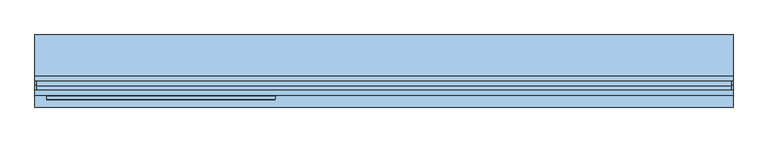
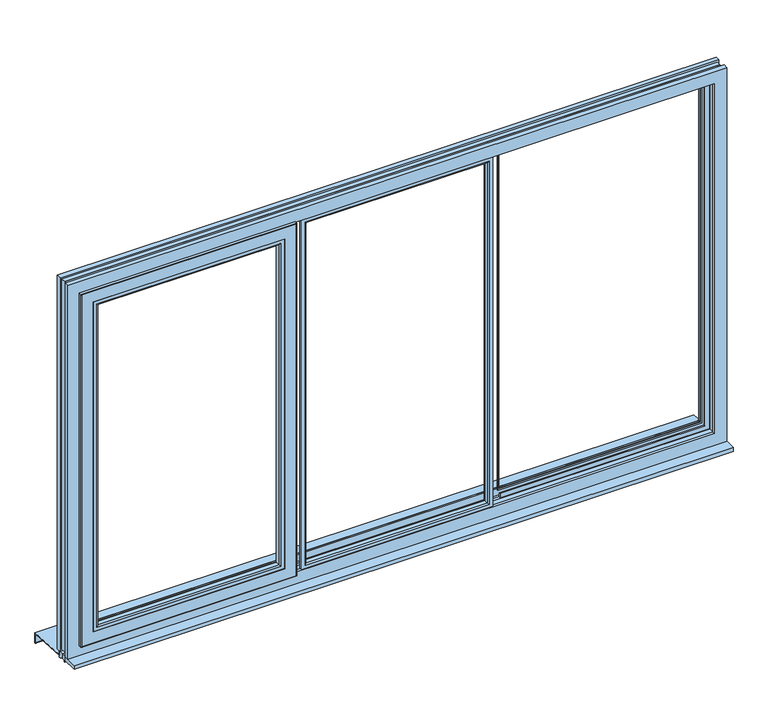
"""IFC4 building model written with IfcOpenShell, lengths in millimetres: window geometry, BZ1_Windows_Opening-Hinge_S9000_Three-Piece-Window-Turn-Tilt : Windows_Opening-Hinge_S9000_Three-Piece-Window-Turn-Tilt."""

from ifc_helpers import new_model, si_unit, point, frame, frame_2d, origin, place, context, project, spatial, polyline, circle_curve, ellipse_curve, trimmed, segment, composite_curve, outline, extrude, faceted_brep, source, transform, mapped, element, save
from ifc_brep_helpers import plane_surface, cylinder_surface, advanced_brep


def window_5d68ef25(model_context):
    return source(origin(), model_context, "Body", "SolidModel", [
        advanced_brep(
        [(-1394.0, -107.25, 2563.9999996), (-1394.0, -118.5, 2563.9999996), (-1394.0, -118.5, 975.9999996), (-1394.0, -107.25, 975.9999996), (-1398.1, -77.5, 2568.0999996), (-1398.1, -107.25, 2568.0999996), (-1398.1, -107.25, 971.8999996), (-1398.1, -77.5, 971.8999996), (-1430.0, -103.5, 2599.9999996), (-1430.0, -77.5, 2599.9999996), (-1430.0, -77.5, 939.9999996), (-1430.0, -103.5, 939.9999996), (-1450.0, -116.0, 2619.9999996), (-1450.0, -103.5, 2619.9999996), (-1450.0, -103.5, 919.9999996), (-1450.0, -116.0, 919.9999996), (-1447.5, -118.5, 2617.4999996), (-1447.5, -118.5, 922.4999996), (-523.4, -118.5, 975.9999996), (-523.4, -107.25, 975.9999996), (-519.3, -107.25, 971.8999996), (-519.3, -77.5, 971.8999996), (-487.4, -77.5, 939.9999996), (-487.4, -103.5, 939.9999996), (-467.4, -103.5, 919.9999996), (-467.4, -116.0, 919.9999996), (-469.9, -118.5, 922.4999996), (-523.4, -118.5, 2563.9999996), (-523.4, -107.25, 2563.9999996), (-519.3, -107.25, 2568.0999996), (-519.3, -77.5, 2568.0999996), (-487.4, -77.5, 2599.9999996), (-487.4, -103.5, 2599.9999996), (-467.4, -103.5, 2619.9999996), (-467.4, -116.0, 2619.9999996), (-469.9, -118.5, 2617.4999996)],
        [
            (0, 1),
            (1, 2),
            (2, 3),
            (3, 0),
            (4, 5),
            (5, 6),
            (6, 7),
            (7, 4),
            (8, 9),
            (9, 10),
            (10, 11),
            (11, 8),
            (12, 13),
            (13, 14),
            (14, 15),
            (15, 12),
            (16, 12, ellipse_curve(frame((-1447.5, -116.0, 2617.4999996), z_axis=(-0.707106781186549, 0.0, -0.7071067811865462), x_axis=(-0.7071067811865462, 0.0, 0.7071067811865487)), 3.5355339, 2.5)),
            (15, 17, ellipse_curve(frame((-1447.5, -116.0, 922.4999996), z_axis=(-0.7071067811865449, 0.0, 0.70710678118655), x_axis=(0.7071067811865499, 0.0, 0.707106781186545)), 3.5355339, 2.5)),
            (17, 16),
            (2, 18),
            (18, 19),
            (19, 3),
            (6, 20),
            (20, 21),
            (21, 7),
            (10, 22),
            (22, 23),
            (23, 11),
            (14, 24),
            (24, 25),
            (25, 15),
            (25, 26, ellipse_curve(frame((-469.9, -116.0, 922.4999996), z_axis=(-0.7071067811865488, 0.0, -0.7071067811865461), x_axis=(-0.7071067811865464, 0.0, 0.7071067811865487)), 3.5355339, 2.5)),
            (26, 17),
            (18, 27),
            (27, 28),
            (28, 19),
            (20, 29),
            (29, 30),
            (30, 21),
            (22, 31),
            (31, 32),
            (32, 23),
            (24, 33),
            (33, 34),
            (34, 25),
            (34, 35, ellipse_curve(frame((-469.9, -116.0, 2617.4999996), z_axis=(0.7071067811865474, 0.0, -0.7071067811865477), x_axis=(-0.7071067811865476, 0.0, -0.7071067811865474)), 3.5355339, 2.5)),
            (35, 26),
            (35, 16),
            (1, 27),
            (0, 28),
            (5, 29),
            (4, 30),
            (9, 31),
            (8, 32),
            (13, 33),
            (12, 34),
        ],
        [
            plane_surface(frame((-1394.0, -118.5, 2563.9999996), z_axis=(1.0, 0.0, 0.0), x_axis=(0.0, 0.0, -1.0))),
            plane_surface(frame((-1398.1, -107.25, 2568.0999996), z_axis=(1.0, 0.0, 0.0), x_axis=(0.0, 0.0, -1.0))),
            plane_surface(frame((-1430.0, -77.5, 2599.9999996), z_axis=(-1.0, 0.0, 0.0), x_axis=(0.0, 0.0, -1.0))),
            plane_surface(frame((-1450.0, -103.5, 2619.9999996), z_axis=(-1.0, 0.0, 0.0), x_axis=(0.0, 0.0, -1.0))),
            cylinder_surface(frame((-1447.5, -116.0, 2619.9999996), z_axis=(0.0, 0.0, 1.0), x_axis=(0.0, -1.0, 0.0)), 2.5),
            plane_surface(frame((-1394.0, -118.5, 975.9999996), z_axis=(0.0, 0.0, 1.0), x_axis=(1.0, 0.0, 0.0))),
            plane_surface(frame((-1398.1, -107.25, 971.8999996), z_axis=(0.0, 0.0, 1.0), x_axis=(1.0, 0.0, 0.0))),
            plane_surface(frame((-1430.0, -77.5, 939.9999996), z_axis=(0.0, 0.0, -1.0), x_axis=(1.0, 0.0, 0.0))),
            plane_surface(frame((-1450.0, -103.5, 919.9999996), z_axis=(0.0, 0.0, -1.0), x_axis=(1.0, 0.0, 0.0))),
            cylinder_surface(frame((-1450.0, -116.0, 922.4999996), z_axis=(-1.0, 0.0, 0.0), x_axis=(0.0, -1.0, 0.0)), 2.5),
            plane_surface(frame((-523.4, -118.5, 975.9999996), z_axis=(-1.0, 0.0, 0.0), x_axis=(0.0, 0.0, 1.0))),
            plane_surface(frame((-519.3, -107.25, 971.8999996), z_axis=(-1.0, 0.0, 0.0), x_axis=(0.0, 0.0, 1.0))),
            plane_surface(frame((-487.4, -77.5, 939.9999996), z_axis=(1.0, 0.0, 0.0), x_axis=(0.0, 0.0, 1.0))),
            plane_surface(frame((-467.4, -103.5, 919.9999996), z_axis=(1.0, 0.0, 0.0), x_axis=(0.0, 0.0, 1.0))),
            cylinder_surface(frame((-469.9, -116.0, 919.9999996), z_axis=(0.0, 0.0, -1.0), x_axis=(0.0, -1.0, 0.0)), 2.5),
            plane_surface(frame((-469.9, -118.5, 2617.4999996), z_axis=(0.0, -1.0, 0.0), x_axis=(-1.0, 0.0, 0.0))),
            plane_surface(frame((-523.4, -118.5, 2563.9999996), z_axis=(0.0, 0.0, -1.0), x_axis=(-1.0, 0.0, 0.0))),
            plane_surface(frame((-523.4, -107.25, 2563.9999996), z_axis=(0.0, 1.0, 0.0), x_axis=(-1.0, 0.0, 0.0))),
            plane_surface(frame((-519.3, -107.25, 2568.0999996), z_axis=(0.0, 0.0, -1.0), x_axis=(-1.0, 0.0, 0.0))),
            plane_surface(frame((-519.3, -77.5, 2568.0999996), z_axis=(0.0, 1.0, 0.0), x_axis=(-1.0, 0.0, 0.0))),
            plane_surface(frame((-487.4, -77.5, 2599.9999996), z_axis=(0.0, 0.0, 1.0), x_axis=(-1.0, 0.0, 0.0))),
            plane_surface(frame((-468.4, -103.5, 2618.9999996), z_axis=(0.0, 1.0, 0.0), x_axis=(-1.0, 0.0, 0.0))),
            plane_surface(frame((-467.4, -103.5, 2619.9999996), z_axis=(0.0, 0.0, 1.0), x_axis=(-1.0, 0.0, 0.0))),
            cylinder_surface(frame((-467.4, -116.0, 2617.4999996), z_axis=(1.0, 0.0, 0.0), x_axis=(0.0, -1.0, 0.0)), 2.5),
        ],
        [
            (0, [[1, 2, 3, 4]]),
            (1, [[5, 6, 7, 8]]),
            (2, [[9, 10, 11, 12]]),
            (3, [[13, 14, 15, 16]]),
            (4, [[17, -16, 18, 19]]),
            (5, [[-3, 20, 21, 22]]),
            (6, [[-7, 23, 24, 25]]),
            (7, [[-11, 26, 27, 28]]),
            (8, [[-15, 29, 30, 31]]),
            (9, [[-18, -31, 32, 33]]),
            (10, [[-21, 34, 35, 36]]),
            (11, [[-24, 37, 38, 39]]),
            (12, [[-27, 40, 41, 42]]),
            (13, [[-30, 43, 44, 45]]),
            (14, [[-32, -45, 46, 47]]),
            (15, [[-33, -47, 48, -19], [49, -34, -20, -2]]),
            (16, [[-35, -49, -1, 50]]),
            (17, [[51, -37, -23, -6], [-22, -36, -50, -4]]),
            (18, [[-38, -51, -5, 52]]),
            (19, [[53, -40, -26, -10], [-25, -39, -52, -8]]),
            (20, [[-41, -53, -9, 54]]),
            (21, [[55, -43, -29, -14], [-28, -42, -54, -12]]),
            (22, [[-44, -55, -13, 56]]),
            (23, [[-46, -56, -17, -48]]),
        ],
    ),
        advanced_brep(
        [(-1371.8959832, -112.5529143, 2541.8959828), (-1377.6915381, -117.0, 2547.6915377), (-1377.6915381, -117.0, 992.3084614), (-1371.8959832, -112.5529143, 998.1040164), (-1368.0012172, -98.0174497, 2538.0012168), (-1368.0012172, -98.0174497, 1001.9987824), (-1368.0012172, -96.5, 2538.0012168), (-1368.0012172, -96.5, 1001.9987824), (-1381.1432253, -101.5, 2551.1432248), (-1379.8034793, -96.5, 2549.8034789), (-1379.8034793, -96.5, 990.1965203), (-1381.1432253, -101.5, 988.8567743), (-1394.0, -101.5, 2563.9999996), (-1394.0, -101.5, 975.9999996), (-1394.0, -117.0, 975.9999996), (-1394.0, -117.0, 2563.9999996), (-539.7084619, -117.0, 992.3084614), (-545.5040168, -112.5529143, 998.1040164), (-549.3987828, -98.0174497, 1001.9987824), (-549.3987828, -96.5, 1001.9987824), (-537.5965207, -96.5, 990.1965203), (-536.2567747, -101.5, 988.8567743), (-523.4, -101.5, 975.9999996), (-523.4, -117.0, 975.9999996), (-539.7084619, -117.0, 2547.6915377), (-545.5040168, -112.5529143, 2541.8959828), (-549.3987828, -98.0174497, 2538.0012168), (-549.3987828, -96.5, 2538.0012168), (-537.5965207, -96.5, 2549.8034789), (-536.2567747, -101.5, 2551.1432248), (-523.4, -101.5, 2563.9999996), (-523.4, -117.0, 2563.9999996)],
        [
            (0, 1, ellipse_curve(frame((-1377.6915381, -111.0, 2547.6915377), z_axis=(-0.707106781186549, 0.0, -0.7071067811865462), x_axis=(-0.7071067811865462, 0.0, 0.7071067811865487)), 8.4852814, 6.0)),
            (1, 2),
            (2, 3, ellipse_curve(frame((-1377.6915381, -111.0, 992.3084614), z_axis=(-0.7071067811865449, 0.0, 0.70710678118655), x_axis=(0.7071067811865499, 0.0, 0.707106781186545)), 8.4852814, 6.0)),
            (3, 0),
            (4, 0),
            (3, 5),
            (5, 4),
            (6, 4),
            (5, 7),
            (7, 6),
            (8, 9),
            (9, 10),
            (10, 11),
            (11, 8),
            (12, 13),
            (13, 14),
            (14, 15),
            (15, 12),
            (2, 16),
            (16, 17, ellipse_curve(frame((-539.7084619, -111.0, 992.3084614), z_axis=(-0.7071067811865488, 0.0, -0.7071067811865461), x_axis=(-0.7071067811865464, 0.0, 0.7071067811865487)), 8.4852814, 6.0)),
            (17, 3),
            (17, 18),
            (18, 5),
            (18, 19),
            (19, 7),
            (10, 20),
            (20, 21),
            (21, 11),
            (13, 22),
            (22, 23),
            (23, 14),
            (16, 24),
            (24, 25, ellipse_curve(frame((-539.7084619, -111.0, 2547.6915377), z_axis=(0.7071067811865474, 0.0, -0.7071067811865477), x_axis=(-0.7071067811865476, 0.0, -0.7071067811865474)), 8.4852814, 6.0)),
            (25, 17),
            (25, 26),
            (26, 18),
            (26, 27),
            (27, 19),
            (20, 28),
            (28, 29),
            (29, 21),
            (22, 30),
            (30, 31),
            (31, 23),
            (24, 1),
            (0, 25),
            (4, 26),
            (6, 27),
            (9, 28),
            (8, 29),
            (12, 30),
            (15, 31),
        ],
        [
            cylinder_surface(frame((-1377.6915381, -111.0, 2619.9999996), z_axis=(0.0, 0.0, 1.0), x_axis=(0.9659258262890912, -0.2588190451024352, 0.0)), 6.0),
            plane_surface(frame((-1371.8959832, -112.5529143, 2541.8959828), z_axis=(0.9659258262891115, -0.25881904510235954, 0.0), x_axis=(0.0, 0.0, -1.0))),
            plane_surface(frame((-1368.0012172, -98.0174497, 2538.0012168), z_axis=(1.0, 0.0, 0.0), x_axis=(0.0, 0.0, -1.0))),
            plane_surface(frame((-1379.8034793, -96.5, 2549.8034789), z_axis=(-0.9659258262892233, 0.2588190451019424, 0.0), x_axis=(0.0, 0.0, -1.0))),
            plane_surface(frame((-1394.0, -116.0, 2563.9999996), z_axis=(-1.0, 0.0, 0.0), x_axis=(0.0, 0.0, -1.0))),
            cylinder_surface(frame((-1450.0, -111.0, 992.3084614), z_axis=(-1.0, 0.0, 0.0), x_axis=(0.0, -0.2588190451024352, 0.9659258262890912)), 6.0),
            plane_surface(frame((-1371.8959832, -112.5529143, 998.1040164), z_axis=(0.0, -0.25881904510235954, 0.9659258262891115), x_axis=(1.0, 0.0, 0.0))),
            plane_surface(frame((-1368.0012172, -98.0174497, 1001.9987824), z_axis=(0.0, 0.0, 1.0), x_axis=(1.0, 0.0, 0.0))),
            plane_surface(frame((-1379.8034793, -96.5, 990.1965203), z_axis=(0.0, 0.2588190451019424, -0.9659258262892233), x_axis=(1.0, 0.0, 0.0))),
            plane_surface(frame((-1394.0, -116.0, 975.9999996), z_axis=(0.0, 0.0, -1.0), x_axis=(1.0, 0.0, 0.0))),
            cylinder_surface(frame((-539.7084619, -111.0, 919.9999996), z_axis=(0.0, 0.0, -1.0), x_axis=(-0.9659258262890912, -0.2588190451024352, 0.0)), 6.0),
            plane_surface(frame((-545.5040168, -112.5529143, 998.1040164), z_axis=(-0.9659258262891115, -0.25881904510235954, 0.0), x_axis=(0.0, 0.0, 1.0))),
            plane_surface(frame((-549.3987828, -98.0174497, 1001.9987824), z_axis=(-1.0, 0.0, 0.0), x_axis=(0.0, 0.0, 1.0))),
            plane_surface(frame((-537.5965207, -96.5, 990.1965203), z_axis=(0.9659258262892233, 0.2588190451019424, 0.0), x_axis=(0.0, 0.0, 1.0))),
            plane_surface(frame((-523.4, -116.0, 975.9999996), z_axis=(1.0, 0.0, 0.0), x_axis=(0.0, 0.0, 1.0))),
            cylinder_surface(frame((-467.4, -111.0, 2547.6915377), z_axis=(1.0, 0.0, 0.0), x_axis=(0.0, -0.2588190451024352, -0.9659258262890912)), 6.0),
            plane_surface(frame((-545.5040168, -112.5529143, 2541.8959828), z_axis=(0.0, -0.25881904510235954, -0.9659258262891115), x_axis=(-1.0, 0.0, 0.0))),
            plane_surface(frame((-549.3987828, -98.0174497, 2538.0012168), z_axis=(0.0, 0.0, -1.0), x_axis=(-1.0, 0.0, 0.0))),
            plane_surface(frame((-549.3987828, -96.5, 2538.0012168), z_axis=(0.0, 1.0, 0.0), x_axis=(-1.0, 0.0, 0.0))),
            plane_surface(frame((-537.5965207, -96.5, 2549.8034789), z_axis=(0.0, 0.2588190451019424, 0.9659258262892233), x_axis=(-1.0, 0.0, 0.0))),
            plane_surface(frame((-536.2567747, -101.5, 2551.1432248), z_axis=(0.0, 1.0, 0.0), x_axis=(-1.0, 0.0, 0.0))),
            plane_surface(frame((-523.4, -116.0, 2563.9999996), z_axis=(0.0, 0.0, 1.0), x_axis=(-1.0, 0.0, 0.0))),
            plane_surface(frame((-523.4, -117.0, 2563.9999996), z_axis=(0.0, -1.0, 0.0), x_axis=(-1.0, 0.0, 0.0))),
        ],
        [
            (0, [[1, 2, 3, 4]]),
            (1, [[5, -4, 6, 7]]),
            (2, [[8, -7, 9, 10]]),
            (3, [[11, 12, 13, 14]]),
            (4, [[15, 16, 17, 18]]),
            (5, [[-3, 19, 20, 21]]),
            (6, [[-6, -21, 22, 23]]),
            (7, [[-9, -23, 24, 25]]),
            (8, [[-13, 26, 27, 28]]),
            (9, [[-16, 29, 30, 31]]),
            (10, [[-20, 32, 33, 34]]),
            (11, [[-22, -34, 35, 36]]),
            (12, [[-24, -36, 37, 38]]),
            (13, [[-27, 39, 40, 41]]),
            (14, [[-30, 42, 43, 44]]),
            (15, [[-33, 45, -1, 46]]),
            (16, [[-35, -46, -5, 47]]),
            (17, [[-37, -47, -8, 48]]),
            (18, [[49, -39, -26, -12], [-25, -38, -48, -10]]),
            (19, [[-40, -49, -11, 50]]),
            (20, [[51, -42, -29, -15], [-28, -41, -50, -14]]),
            (21, [[-43, -51, -18, 52]]),
            (22, [[-31, -44, -52, -17], [-45, -32, -19, -2]]),
        ],
    ),
        extrude(outline(polyline([(-34.0, 840.0), (-43.25, 840.0), (-43.25, 848.0), (-55.0, 848.0), (-55.0, 870.0), (-34.0, 870.0), (-34.0, 840.0)])), frame((-1500.0, 0.0, 0.0), z_axis=(1.0, 0.0, 0.0), x_axis=(0.0, 1.0, 0.0)), (0.0, 0.0, 1.0), 3000.0),
        extrude(outline(polyline([(-71.75, 840.0), (-75.5, 840.0), (-75.5, 870.0), (-55.0, 870.0), (-55.0, 848.0), (-71.75, 848.0), (-71.75, 840.0)])), frame((-1500.0, 0.0, 0.0), z_axis=(1.0, 0.0, 0.0), x_axis=(0.0, 1.0, 0.0)), (0.0, 0.0, 1.0), 3000.0),
        advanced_brep(
        [(1416.0, -31.47229, 2586.0), (1418.5522708, -21.9470857, 2588.5522708), (1418.5522708, -21.9470857, 951.4477292), (1416.0, -31.47229, 954.0), (1416.0, -32.5, 2586.0), (1416.0, -32.5, 954.0), (1446.1, -46.5113286, 2616.1), (1449.0781998, -32.5, 2619.0781998), (1449.0781998, -32.5, 920.9218002), (1446.1, -46.5113286, 923.9), (1446.1, -60.0, 2616.1), (1446.1, -60.0, 923.9), (1492.0, -38.5, 2662.0), (1492.0, -60.0, 2662.0), (1492.0, -60.0, 878.0), (1492.0, -38.5, 878.0), (1500.0, -17.5, 2670.0), (1500.0, -38.5, 2670.0), (1500.0, -38.5, 870.0), (1500.0, -17.5, 870.0), (1424.3478258, -17.5, 2594.3478258), (1424.3478258, -17.5, 945.6521742), (-1418.5522708, -21.9470857, 951.4477292), (-1416.0, -31.47229, 954.0), (-1416.0, -32.5, 954.0), (-1449.0781998, -32.5, 920.9218002), (-1446.1, -46.5113286, 923.9), (-1446.1, -60.0, 923.9), (-1492.0, -60.0, 878.0), (-1492.0, -38.5, 878.0), (-1500.0, -38.5, 870.0), (-1500.0, -17.5, 870.0), (-1424.3478258, -17.5, 945.6521742), (-1418.5522708, -21.9470857, 2588.5522708), (-1416.0, -31.47229, 2586.0), (-1416.0, -32.5, 2586.0), (-1449.0781998, -32.5, 2619.0781998), (-1446.1, -46.5113286, 2616.1), (-1446.1, -60.0, 2616.1), (-1492.0, -60.0, 2662.0), (-1492.0, -38.5, 2662.0), (-1500.0, -38.5, 2670.0), (-1500.0, -17.5, 2670.0), (-1424.3478258, -17.5, 2594.3478258)],
        [
            (0, 1),
            (1, 2),
            (2, 3),
            (3, 0),
            (4, 0),
            (3, 5),
            (5, 4),
            (6, 7),
            (7, 8),
            (8, 9),
            (9, 6),
            (10, 6),
            (9, 11),
            (11, 10),
            (12, 13),
            (13, 14),
            (14, 15),
            (15, 12),
            (16, 17),
            (17, 18),
            (18, 19),
            (19, 16),
            (1, 20, ellipse_curve(frame((1424.3478258, -23.5, 2594.3478258), z_axis=(0.7071067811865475, 0.0, -0.7071067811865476), x_axis=(0.7071067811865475, 0.0, 0.7071067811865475)), 8.4852814, 6.0)),
            (20, 21),
            (21, 2, ellipse_curve(frame((1424.3478258, -23.5, 945.6521742), z_axis=(0.7071067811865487, 0.0, 0.7071067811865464), x_axis=(-0.7071067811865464, 0.0, 0.7071067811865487)), 8.4852814, 6.0)),
            (2, 22),
            (22, 23),
            (23, 3),
            (23, 24),
            (24, 5),
            (8, 25),
            (25, 26),
            (26, 9),
            (26, 27),
            (27, 11),
            (14, 28),
            (28, 29),
            (29, 15),
            (18, 30),
            (30, 31),
            (31, 19),
            (21, 32),
            (32, 22, ellipse_curve(frame((-1424.3478258, -23.5, 945.6521742), z_axis=(0.7071067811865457, 0.0, -0.7071067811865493), x_axis=(0.7071067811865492, 0.0, 0.7071067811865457)), 8.4852814, 6.0)),
            (22, 33),
            (33, 34),
            (34, 23),
            (34, 35),
            (35, 24),
            (25, 36),
            (36, 37),
            (37, 26),
            (37, 38),
            (38, 27),
            (28, 39),
            (39, 40),
            (40, 29),
            (30, 41),
            (41, 42),
            (42, 31),
            (32, 43),
            (43, 33, ellipse_curve(frame((-1424.3478258, -23.5, 2594.3478258), z_axis=(-0.7071067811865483, 0.0, -0.7071067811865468), x_axis=(0.7071067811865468, 0.0, -0.7071067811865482)), 8.4852814, 6.0)),
            (33, 1),
            (0, 34),
            (4, 35),
            (7, 36),
            (6, 37),
            (10, 38),
            (13, 39),
            (12, 40),
            (17, 41),
            (16, 42),
            (20, 43),
        ],
        [
            plane_surface(frame((1418.5522708, -21.9470857, 2588.5522708), z_axis=(-0.9659258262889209, 0.25881904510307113, 0.0), x_axis=(0.0, 0.0, -1.0))),
            plane_surface(frame((1416.0, -31.47229, 2586.0), z_axis=(-1.0, 0.0, 0.0), x_axis=(0.0, 0.0, -1.0))),
            plane_surface(frame((1449.0781998, -32.5, 2619.0781998), z_axis=(-0.9781476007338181, 0.20791169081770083, 0.0), x_axis=(0.0, 0.0, -1.0))),
            plane_surface(frame((1446.1, -46.5113286, 2616.1), z_axis=(-1.0, 0.0, 0.0), x_axis=(0.0, 0.0, -1.0))),
            plane_surface(frame((1492.0, -60.0, 2662.0), z_axis=(1.0, 0.0, 0.0), x_axis=(0.0, 0.0, -1.0))),
            plane_surface(frame((1500.0, -38.5, 2670.0), z_axis=(1.0, 0.0, 0.0), x_axis=(0.0, 0.0, -1.0))),
            cylinder_surface(frame((1424.3478258, -23.5, 2670.0), z_axis=(0.0, 0.0, 1.0), x_axis=(0.0, 1.0, 0.0)), 6.0),
            plane_surface(frame((1418.5522708, -21.9470857, 951.4477292), z_axis=(0.0, 0.25881904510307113, 0.9659258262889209), x_axis=(-1.0, 0.0, 0.0))),
            plane_surface(frame((1416.0, -31.47229, 954.0), z_axis=(0.0, 0.0, 1.0), x_axis=(-1.0, 0.0, 0.0))),
            plane_surface(frame((1449.0781998, -32.5, 920.9218002), z_axis=(0.0, 0.20791169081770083, 0.9781476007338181), x_axis=(-1.0, 0.0, 0.0))),
            plane_surface(frame((1446.1, -46.5113286, 923.9), z_axis=(0.0, 0.0, 1.0), x_axis=(-1.0, 0.0, 0.0))),
            plane_surface(frame((1492.0, -60.0, 878.0), z_axis=(0.0, 0.0, -1.0), x_axis=(-1.0, 0.0, 0.0))),
            plane_surface(frame((1500.0, -38.5, 870.0), z_axis=(0.0, 0.0, -1.0), x_axis=(-1.0, 0.0, 0.0))),
            cylinder_surface(frame((1500.0, -23.5, 945.6521742), z_axis=(1.0, 0.0, 0.0), x_axis=(0.0, 1.0, 0.0)), 6.0),
            plane_surface(frame((-1418.5522708, -21.9470857, 951.4477292), z_axis=(0.9659258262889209, 0.25881904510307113, 0.0), x_axis=(0.0, 0.0, 1.0))),
            plane_surface(frame((-1416.0, -31.47229, 954.0), z_axis=(1.0, 0.0, 0.0), x_axis=(0.0, 0.0, 1.0))),
            plane_surface(frame((-1449.0781998, -32.5, 920.9218002), z_axis=(0.9781476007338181, 0.20791169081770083, 0.0), x_axis=(0.0, 0.0, 1.0))),
            plane_surface(frame((-1446.1, -46.5113286, 923.9), z_axis=(1.0, 0.0, 0.0), x_axis=(0.0, 0.0, 1.0))),
            plane_surface(frame((-1492.0, -60.0, 878.0), z_axis=(-1.0, 0.0, 0.0), x_axis=(0.0, 0.0, 1.0))),
            plane_surface(frame((-1500.0, -38.5, 870.0), z_axis=(-1.0, 0.0, 0.0), x_axis=(0.0, 0.0, 1.0))),
            cylinder_surface(frame((-1424.3478258, -23.5, 870.0), z_axis=(0.0, 0.0, -1.0), x_axis=(0.0, 1.0, 0.0)), 6.0),
            plane_surface(frame((-1418.5522708, -21.9470857, 2588.5522708), z_axis=(0.0, 0.25881904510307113, -0.9659258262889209), x_axis=(1.0, 0.0, 0.0))),
            plane_surface(frame((-1416.0, -31.47229, 2586.0), z_axis=(0.0, 0.0, -1.0), x_axis=(1.0, 0.0, 0.0))),
            plane_surface(frame((-1417.0, -32.5, 2587.0), z_axis=(0.0, -1.0, 0.0), x_axis=(1.0, 0.0, 0.0))),
            plane_surface(frame((-1449.0781998, -32.5, 2619.0781998), z_axis=(0.0, 0.20791169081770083, -0.9781476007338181), x_axis=(1.0, 0.0, 0.0))),
            plane_surface(frame((-1446.1, -46.5113286, 2616.1), z_axis=(0.0, 0.0, -1.0), x_axis=(1.0, 0.0, 0.0))),
            plane_surface(frame((-1446.1, -60.0, 2616.1), z_axis=(0.0, -1.0, 0.0), x_axis=(1.0, 0.0, 0.0))),
            plane_surface(frame((-1492.0, -60.0, 2662.0), z_axis=(0.0, 0.0, 1.0), x_axis=(1.0, 0.0, 0.0))),
            plane_surface(frame((-1492.0, -38.5, 2662.0), z_axis=(0.0, -1.0, 0.0), x_axis=(1.0, 0.0, 0.0))),
            plane_surface(frame((-1500.0, -38.5, 2670.0), z_axis=(0.0, 0.0, 1.0), x_axis=(1.0, 0.0, 0.0))),
            plane_surface(frame((-1500.0, -17.5, 2670.0), z_axis=(0.0, 1.0, 0.0), x_axis=(1.0, 0.0, 0.0))),
            cylinder_surface(frame((-1500.0, -23.5, 2594.3478258), z_axis=(-1.0, 0.0, 0.0), x_axis=(0.0, 1.0, 0.0)), 6.0),
        ],
        [
            (0, [[1, 2, 3, 4]]),
            (1, [[5, -4, 6, 7]]),
            (2, [[8, 9, 10, 11]]),
            (3, [[12, -11, 13, 14]]),
            (4, [[15, 16, 17, 18]]),
            (5, [[19, 20, 21, 22]]),
            (6, [[23, 24, 25, -2]]),
            (7, [[-3, 26, 27, 28]]),
            (8, [[-6, -28, 29, 30]]),
            (9, [[-10, 31, 32, 33]]),
            (10, [[-13, -33, 34, 35]]),
            (11, [[-17, 36, 37, 38]]),
            (12, [[-21, 39, 40, 41]]),
            (13, [[-25, 42, 43, -26]]),
            (14, [[-27, 44, 45, 46]]),
            (15, [[-29, -46, 47, 48]]),
            (16, [[-32, 49, 50, 51]]),
            (17, [[-34, -51, 52, 53]]),
            (18, [[-37, 54, 55, 56]]),
            (19, [[-40, 57, 58, 59]]),
            (20, [[-43, 60, 61, -44]]),
            (21, [[-45, 62, -1, 63]]),
            (22, [[-47, -63, -5, 64]]),
            (23, [[65, -49, -31, -9], [-30, -48, -64, -7]]),
            (24, [[-50, -65, -8, 66]]),
            (25, [[-52, -66, -12, 67]]),
            (26, [[68, -54, -36, -16], [-35, -53, -67, -14]]),
            (27, [[-55, -68, -15, 69]]),
            (28, [[70, -57, -39, -20], [-38, -56, -69, -18]]),
            (29, [[-58, -70, -19, 71]]),
            (30, [[-41, -59, -71, -22], [72, -60, -42, -24]]),
            (31, [[-61, -72, -23, -62]]),
        ],
    ),
        faceted_brep([(1442.0, -100.0, 2612.0), (1442.0, -88.75, 2612.0), (1442.0, -88.75, 928.0), (1442.0, -100.0, 928.0), (1500.0, -100.0, 2670.0), (1500.0, -100.0, 870.0), (1500.0, -79.0, 870.0), (1500.0, -79.0, 2670.0), (1492.0, -60.0, 2662.0), (1492.0, -79.0, 2662.0), (1492.0, -79.0, 878.0), (1492.0, -60.0, 878.0), (1446.1, -88.75, 2616.1), (1446.1, -60.0, 2616.1), (1446.1, -60.0, 923.9), (1446.1, -88.75, 923.9), (-1442.0, -88.75, 928.0), (-1442.0, -100.0, 928.0), (-1500.0, -100.0, 870.0), (-1500.0, -79.0, 870.0), (-1492.0, -79.0, 878.0), (-1492.0, -60.0, 878.0), (-1446.1, -60.0, 923.9), (-1446.1, -88.75, 923.9), (-1442.0, -88.75, 2612.0), (-1442.0, -100.0, 2612.0), (-1500.0, -100.0, 2670.0), (-1500.0, -79.0, 2670.0), (-1492.0, -79.0, 2662.0), (-1492.0, -60.0, 2662.0), (-1446.1, -60.0, 2616.1), (-1446.1, -88.75, 2616.1)], [[[0, 1, 2, 3]], [[4, 5, 6, 7]], [[8, 9, 10, 11]], [[12, 13, 14, 15]], [[3, 2, 16, 17]], [[6, 5, 18, 19]], [[11, 10, 20, 21]], [[15, 14, 22, 23]], [[17, 16, 24, 25]], [[19, 18, 26, 27]], [[21, 20, 28, 29]], [[23, 22, 30, 31]], [[25, 24, 1, 0]], [[4, 26, 18, 5], [3, 17, 25, 0]], [[27, 26, 4, 7]], [[6, 19, 27, 7], [9, 28, 20, 10]], [[29, 28, 9, 8]], [[11, 21, 29, 8], [13, 30, 22, 14]], [[31, 30, 13, 12]], [[15, 23, 31, 12], [1, 24, 16, 2]]]),
        extrude(outline(polyline([(2616.1, 492.3000009), (2595.0, 492.3000009), (2595.0, 1425.0), (945.0, 1425.0), (945.0, 492.3000009), (923.9, 492.3000009), (923.9, 1446.1), (2616.1, 1446.1), (2616.1, 492.3000009)])), frame((0.0, -57.5, 0.0), z_axis=(0.0, 1.0, 0.0), x_axis=(0.0, 0.0, 1.0)), (0.0, 0.0, 1.0), 5.3),
        extrude(outline(polyline([(2595.0, -492.3), (2616.1, -492.3), (2616.1, -1446.1), (923.9, -1446.1), (923.9, -492.3), (945.0, -492.3), (945.0, -1425.0), (2595.0, -1425.0), (2595.0, -492.3)])), frame((0.0, -57.5, 0.0), z_axis=(0.0, 1.0, 0.0), x_axis=(0.0, 0.0, 1.0)), (0.0, 0.0, 1.0), 5.3),
        extrude(outline(polyline([(2593.8, 1423.8), (2593.8, 493.5000009), (946.2, 493.5000009), (946.2, 1423.8), (2593.8, 1423.8)]), holes=[polyline([(954.0, 1416.0), (954.0, 501.3000009), (2586.0, 501.3000009), (2586.0, 1416.0), (954.0, 1416.0)])]), frame((0.0, -36.0, 0.0), z_axis=(0.0, 1.0, 0.0), x_axis=(0.0, 0.0, 1.0)), (0.0, 0.0, 1.0), 3.5),
        extrude(outline(polyline([(946.2, -1423.8), (946.2, -493.5), (2593.8, -493.5), (2593.8, -1423.8), (946.2, -1423.8)]), holes=[polyline([(2586.0, -1416.0), (2586.0, -501.3), (954.0, -501.3), (954.0, -1416.0), (2586.0, -1416.0)])]), frame((0.0, -36.0, 0.0), z_axis=(0.0, 1.0, 0.0), x_axis=(0.0, 0.0, 1.0)), (0.0, 0.0, 1.0), 3.5),
        advanced_brep(
        [(435.3, -98.5, 2612.0), (435.3, -98.5, 928.0), (435.3, -83.0, 928.0), (435.3, -83.0, 2612.0), (421.1034793, -78.0, 2597.8034793), (422.4432253, -83.0, 2599.1432253), (422.4432253, -83.0, 940.8567747), (421.1034793, -78.0, 942.1965207), (409.3012172, -79.5174497, 2586.0012172), (409.3012172, -78.0, 2586.0012172), (409.3012172, -78.0, 953.9987828), (409.3012172, -79.5174497, 953.9987828), (413.1959832, -94.0529143, 2589.8959832), (413.1959832, -94.0529143, 950.1040168), (418.9915381, -98.5, 2595.6915381), (418.9915381, -98.5, 944.3084619), (-435.2999991, -98.5, 928.0), (-435.2999991, -83.0, 928.0), (-422.4432244, -83.0, 940.8567747), (-421.1034784, -78.0, 942.1965207), (-409.3012163, -78.0, 953.9987828), (-409.3012163, -79.5174497, 953.9987828), (-413.1959823, -94.0529143, 950.1040168), (-418.9915373, -98.5, 944.3084619), (-435.2999991, -98.5, 2612.0), (-435.2999991, -83.0, 2612.0), (-422.4432244, -83.0, 2599.1432253), (-421.1034784, -78.0, 2597.8034793), (-409.3012163, -78.0, 2586.0012172), (-409.3012163, -79.5174497, 2586.0012172), (-413.1959823, -94.0529143, 2589.8959832), (-418.9915373, -98.5, 2595.6915381)],
        [
            (0, 1),
            (1, 2),
            (2, 3),
            (3, 0),
            (4, 5),
            (5, 6),
            (6, 7),
            (7, 4),
            (8, 9),
            (9, 10),
            (10, 11),
            (11, 8),
            (12, 8),
            (11, 13),
            (13, 12),
            (14, 12, ellipse_curve(frame((418.9915381, -92.5, 2595.6915381), z_axis=(0.7071067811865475, 0.0, -0.7071067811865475), x_axis=(0.7071067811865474, 0.0, 0.7071067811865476)), 8.4852814, 6.0)),
            (13, 15, ellipse_curve(frame((418.9915381, -92.5, 944.3084619), z_axis=(0.7071067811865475, 0.0, 0.7071067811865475), x_axis=(-0.7071067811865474, 0.0, 0.7071067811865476)), 8.4852814, 6.0)),
            (15, 14),
            (1, 16),
            (16, 17),
            (17, 2),
            (6, 18),
            (18, 19),
            (19, 7),
            (10, 20),
            (20, 21),
            (21, 11),
            (21, 22),
            (22, 13),
            (22, 23, ellipse_curve(frame((-418.9915373, -92.5, 944.3084619), z_axis=(0.7071067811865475, 0.0, -0.7071067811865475), x_axis=(0.7071067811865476, 0.0, 0.7071067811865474)), 8.4852814, 6.0)),
            (23, 15),
            (16, 24),
            (24, 25),
            (25, 17),
            (18, 26),
            (26, 27),
            (27, 19),
            (20, 28),
            (28, 29),
            (29, 21),
            (29, 30),
            (30, 22),
            (30, 31, ellipse_curve(frame((-418.9915373, -92.5, 2595.6915381), z_axis=(-0.7071067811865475, 0.0, -0.7071067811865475), x_axis=(0.7071067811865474, 0.0, -0.7071067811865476)), 8.4852814, 6.0)),
            (31, 23),
            (0, 24),
            (31, 14),
            (3, 25),
            (5, 26),
            (4, 27),
            (9, 28),
            (8, 29),
            (12, 30),
        ],
        [
            plane_surface(frame((435.3, -97.5, 2612.0), z_axis=(1.0, 0.0, 0.0), x_axis=(0.0, 0.0, -1.0))),
            plane_surface(frame((422.4432253, -83.0, 2599.1432253), z_axis=(0.9659258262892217, 0.2588190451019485, 0.0), x_axis=(0.0, 0.0, -1.0))),
            plane_surface(frame((409.3012172, -78.0, 2586.0012172), z_axis=(-1.0, 0.0, 0.0), x_axis=(0.0, 0.0, -1.0))),
            plane_surface(frame((409.3012172, -79.5174497, 2586.0012172), z_axis=(-0.96592582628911, -0.2588190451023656, 0.0), x_axis=(0.0, 0.0, -1.0))),
            cylinder_surface(frame((418.9915381, -92.5, 2612.0), z_axis=(0.0, 0.0, 1.0), x_axis=(-0.9659258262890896, -0.25881904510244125, 0.0)), 6.0),
            plane_surface(frame((435.3, -97.5, 928.0), z_axis=(0.0, 0.0, -1.0), x_axis=(-1.0, 0.0, 0.0))),
            plane_surface(frame((422.4432253, -83.0, 940.8567747), z_axis=(0.0, 0.2588190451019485, -0.9659258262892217), x_axis=(-1.0, 0.0, 0.0))),
            plane_surface(frame((409.3012172, -78.0, 953.9987828), z_axis=(0.0, 0.0, 1.0), x_axis=(-1.0, 0.0, 0.0))),
            plane_surface(frame((409.3012172, -79.5174497, 953.9987828), z_axis=(0.0, -0.2588190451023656, 0.96592582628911), x_axis=(-1.0, 0.0, 0.0))),
            cylinder_surface(frame((435.3, -92.5, 944.3084619), z_axis=(1.0, 0.0, 0.0), x_axis=(0.0, -0.25881904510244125, 0.9659258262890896)), 6.0),
            plane_surface(frame((-435.2999991, -97.5, 928.0), z_axis=(-1.0, 0.0, 0.0), x_axis=(0.0, 0.0, 1.0))),
            plane_surface(frame((-422.4432244, -83.0, 940.8567747), z_axis=(-0.9659258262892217, 0.2588190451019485, 0.0), x_axis=(0.0, 0.0, 1.0))),
            plane_surface(frame((-409.3012163, -78.0, 953.9987828), z_axis=(1.0, 0.0, 0.0), x_axis=(0.0, 0.0, 1.0))),
            plane_surface(frame((-409.3012163, -79.5174497, 953.9987828), z_axis=(0.96592582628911, -0.2588190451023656, 0.0), x_axis=(0.0, 0.0, 1.0))),
            cylinder_surface(frame((-418.9915373, -92.5, 928.0), z_axis=(0.0, 0.0, -1.0), x_axis=(0.9659258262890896, -0.25881904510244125, 0.0)), 6.0),
            plane_surface(frame((-418.9915373, -98.5, 2595.6915381), z_axis=(0.0, -1.0, 0.0), x_axis=(1.0, 0.0, 0.0))),
            plane_surface(frame((-435.2999991, -97.5, 2612.0), z_axis=(0.0, 0.0, 1.0), x_axis=(1.0, 0.0, 0.0))),
            plane_surface(frame((-435.2999991, -83.0, 2612.0), z_axis=(0.0, 1.0, 0.0), x_axis=(1.0, 0.0, 0.0))),
            plane_surface(frame((-422.4432244, -83.0, 2599.1432253), z_axis=(0.0, 0.2588190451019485, 0.9659258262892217), x_axis=(1.0, 0.0, 0.0))),
            plane_surface(frame((-421.1034784, -78.0, 2597.8034793), z_axis=(0.0, 1.0, 0.0), x_axis=(1.0, 0.0, 0.0))),
            plane_surface(frame((-409.3012163, -78.0, 2586.0012172), z_axis=(0.0, 0.0, -1.0), x_axis=(1.0, 0.0, 0.0))),
            plane_surface(frame((-409.3012163, -79.5174497, 2586.0012172), z_axis=(0.0, -0.2588190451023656, -0.96592582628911), x_axis=(1.0, 0.0, 0.0))),
            cylinder_surface(frame((-435.2999991, -92.5, 2595.6915381), z_axis=(-1.0, 0.0, 0.0), x_axis=(0.0, -0.25881904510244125, -0.9659258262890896)), 6.0),
        ],
        [
            (0, [[1, 2, 3, 4]]),
            (1, [[5, 6, 7, 8]]),
            (2, [[9, 10, 11, 12]]),
            (3, [[13, -12, 14, 15]]),
            (4, [[16, -15, 17, 18]]),
            (5, [[-2, 19, 20, 21]]),
            (6, [[-7, 22, 23, 24]]),
            (7, [[-11, 25, 26, 27]]),
            (8, [[-14, -27, 28, 29]]),
            (9, [[-17, -29, 30, 31]]),
            (10, [[-20, 32, 33, 34]]),
            (11, [[-23, 35, 36, 37]]),
            (12, [[-26, 38, 39, 40]]),
            (13, [[-28, -40, 41, 42]]),
            (14, [[-30, -42, 43, 44]]),
            (15, [[45, -32, -19, -1], [-31, -44, 46, -18]]),
            (16, [[-33, -45, -4, 47]]),
            (17, [[-21, -34, -47, -3], [48, -35, -22, -6]]),
            (18, [[-36, -48, -5, 49]]),
            (19, [[-24, -37, -49, -8], [50, -38, -25, -10]]),
            (20, [[-39, -50, -9, 51]]),
            (21, [[-41, -51, -13, 52]]),
            (22, [[-43, -52, -16, -46]]),
        ],
    ),
        extrude(outline(composite_curve([segment(polyline([(-32.0, 870.0), (-32.0, 851.5), (159.5, 839.5549957), (159.5, 792.369195)]), True, "CONTINUOUS"), segment(trimmed(circle_curve(frame_2d((158.5, 792.369195)), 1.0), [point((159.5, 792.369195))], [point((157.5, 792.369195))], False, "CARTESIAN"), True, "CONTINUOUS"), segment(polyline([(157.5, 792.369195), (157.5, 837.8767964), (-34.0, 849.8218007), (-34.0, 870.0), (-32.0, 870.0)]), True, "CONTINUOUS")], self_intersect=False)), frame((-1500.0, 0.0, 0.0), z_axis=(1.0, 0.0, 0.0), x_axis=(0.0, 1.0, 0.0)), (0.0, 0.0, 1.0), 3000.0),
        extrude(outline(polyline([(1500.0, -150.0), (-1500.0, -150.0), (-1500.0, -75.5), (1500.0, -75.5), (1500.0, -150.0)])), frame((0.0, 0.0, 851.5), z_axis=(0.0, 0.0, 1.0), x_axis=(1.0, 0.0, 0.0)), (0.0, 0.0, 1.0), 18.5),
    ])


if __name__ == "__main__":
    model = new_model("IFC4")
    model_context = context("Model", 3, world=origin())
    ifc_project = project(units=[si_unit("LENGTHUNIT", "METRE", prefix="MILLI")], contexts=[model_context])
    site = spatial("IfcSite", under=ifc_project)
    building = spatial("IfcBuilding", under=site)
    placement = place(None, origin())
    window_shape = window_5d68ef25(model_context)
    element("IfcWindow", 1, ObjectType="BZ1_Windows_Opening-Hinge_S9000_Three-Piece-Window-Turn-Tilt : Windows_Opening-Hinge_S9000_Three-Piece-Window-Turn-Tilt", at=placement, inside=building, context=model_context, shape_type="MappedRepresentation", body=[
        mapped(window_shape, transform((0.0, 0.0, 0.0), x_axis=(1.0, 0.0, 0.0), y_axis=(0.0, 1.0, 0.0), z_axis=(0.0, 0.0, 1.0))),
    ])
    save(model, "model.ifc")
